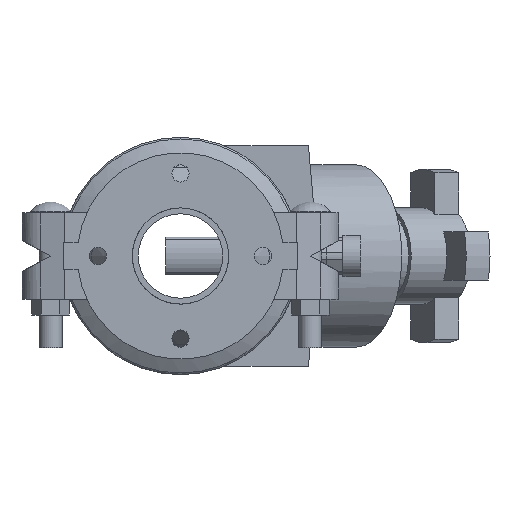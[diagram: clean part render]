
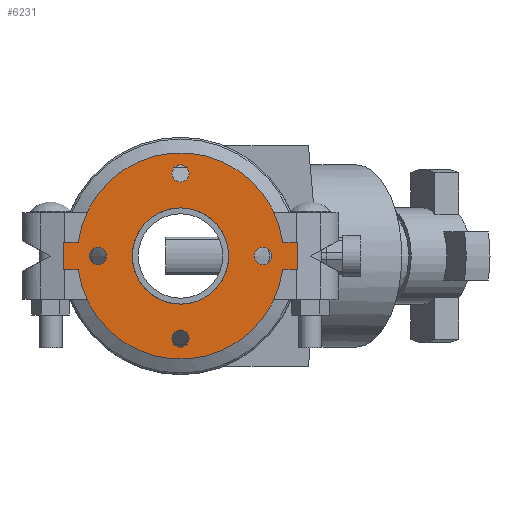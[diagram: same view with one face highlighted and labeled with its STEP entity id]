
A CAD part, front view. The second image highlights one B-rep face of the part: STEP entity #6231.
In plain terms, the highlighted planar face has unit normal (0, -1, 0) as drawn and (0, 0, 1) by its records, which use the part's own axes.
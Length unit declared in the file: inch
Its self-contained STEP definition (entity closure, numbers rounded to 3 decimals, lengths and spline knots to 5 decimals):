
#174=FACE_BOUND('',#792,.T.);
#175=FACE_BOUND('',#793,.T.);
#176=FACE_BOUND('',#794,.T.);
#177=FACE_BOUND('',#795,.T.);
#178=FACE_BOUND('',#796,.T.);
#241=PLANE('',#6785);
#446=FACE_OUTER_BOUND('',#791,.T.);
#791=EDGE_LOOP('',(#4034,#4035,#4036,#4037,#4038,#4039,#4040,#4041));
#792=EDGE_LOOP('',(#4042));
#793=EDGE_LOOP('',(#4043));
#794=EDGE_LOOP('',(#4044));
#795=EDGE_LOOP('',(#4045));
#796=EDGE_LOOP('',(#4046,#4047));
#1193=LINE('',#9522,#1659);
#1194=LINE('',#9525,#1660);
#1197=LINE('',#9530,#1663);
#1198=LINE('',#9533,#1664);
#1200=LINE('',#9536,#1666);
#1201=LINE('',#9538,#1667);
#1659=VECTOR('',#7568,0.3937);
#1660=VECTOR('',#7571,0.3937);
#1663=VECTOR('',#7576,0.3937);
#1664=VECTOR('',#7579,0.3937);
#1666=VECTOR('',#7583,0.3937);
#1667=VECTOR('',#7586,0.3937);
#2109=CIRCLE('',#6756,0.3125);
#2111=CIRCLE('',#6759,0.3125);
#2113=CIRCLE('',#6762,0.3125);
#2115=CIRCLE('',#6765,0.3125);
#2121=CIRCLE('',#6773,3.75);
#2122=CIRCLE('',#6775,1.75);
#2123=CIRCLE('',#6776,1.75);
#2124=CIRCLE('',#6778,3.75);
#2467=VERTEX_POINT('',#9457);
#2469=VERTEX_POINT('',#9463);
#2471=VERTEX_POINT('',#9469);
#2473=VERTEX_POINT('',#9475);
#2485=VERTEX_POINT('',#9502);
#2486=VERTEX_POINT('',#9504);
#2487=VERTEX_POINT('',#9508);
#2488=VERTEX_POINT('',#9510);
#2489=VERTEX_POINT('',#9514);
#2490=VERTEX_POINT('',#9516);
#2491=VERTEX_POINT('',#9520);
#2492=VERTEX_POINT('',#9524);
#2493=VERTEX_POINT('',#9528);
#2494=VERTEX_POINT('',#9532);
#3073=EDGE_CURVE('',#2467,#2467,#2109,.T.);
#3076=EDGE_CURVE('',#2469,#2469,#2111,.T.);
#3079=EDGE_CURVE('',#2471,#2471,#2113,.T.);
#3082=EDGE_CURVE('',#2473,#2473,#2115,.T.);
#3097=EDGE_CURVE('',#2485,#2486,#2121,.T.);
#3099=EDGE_CURVE('',#2488,#2487,#2122,.T.);
#3100=EDGE_CURVE('',#2487,#2488,#2123,.T.);
#3102=EDGE_CURVE('',#2490,#2489,#2124,.T.);
#3105=EDGE_CURVE('',#2486,#2491,#1193,.T.);
#3106=EDGE_CURVE('',#2492,#2490,#1194,.T.);
#3109=EDGE_CURVE('',#2489,#2493,#1197,.T.);
#3110=EDGE_CURVE('',#2494,#2485,#1198,.T.);
#3112=EDGE_CURVE('',#2493,#2494,#1200,.T.);
#3113=EDGE_CURVE('',#2491,#2492,#1201,.T.);
#4034=ORIENTED_EDGE('',*,*,#3109,.T.);
#4035=ORIENTED_EDGE('',*,*,#3112,.T.);
#4036=ORIENTED_EDGE('',*,*,#3110,.T.);
#4037=ORIENTED_EDGE('',*,*,#3097,.T.);
#4038=ORIENTED_EDGE('',*,*,#3105,.T.);
#4039=ORIENTED_EDGE('',*,*,#3113,.T.);
#4040=ORIENTED_EDGE('',*,*,#3106,.T.);
#4041=ORIENTED_EDGE('',*,*,#3102,.T.);
#4042=ORIENTED_EDGE('',*,*,#3073,.T.);
#4043=ORIENTED_EDGE('',*,*,#3076,.T.);
#4044=ORIENTED_EDGE('',*,*,#3079,.T.);
#4045=ORIENTED_EDGE('',*,*,#3082,.T.);
#4046=ORIENTED_EDGE('',*,*,#3099,.T.);
#4047=ORIENTED_EDGE('',*,*,#3100,.T.);
#6231=ADVANCED_FACE('',(#446,#174,#175,#176,#177,#178),#241,.T.);
#6756=AXIS2_PLACEMENT_3D('',#9458,#7504,#7505);
#6759=AXIS2_PLACEMENT_3D('',#9464,#7511,#7512);
#6762=AXIS2_PLACEMENT_3D('',#9470,#7518,#7519);
#6765=AXIS2_PLACEMENT_3D('',#9476,#7525,#7526);
#6773=AXIS2_PLACEMENT_3D('',#9506,#7550,#7551);
#6775=AXIS2_PLACEMENT_3D('',#9511,#7555,#7556);
#6776=AXIS2_PLACEMENT_3D('',#9512,#7557,#7558);
#6778=AXIS2_PLACEMENT_3D('',#9517,#7562,#7563);
#6785=AXIS2_PLACEMENT_3D('',#9539,#7587,#7588);
#7504=DIRECTION('center_axis',(0.,0.,-1.));
#7505=DIRECTION('ref_axis',(0.,1.,0.));
#7511=DIRECTION('center_axis',(0.,0.,-1.));
#7512=DIRECTION('ref_axis',(1.,0.,0.));
#7518=DIRECTION('center_axis',(0.,0.,-1.));
#7519=DIRECTION('ref_axis',(0.,-1.,0.));
#7525=DIRECTION('center_axis',(0.,0.,-1.));
#7526=DIRECTION('ref_axis',(-1.,0.,0.));
#7550=DIRECTION('center_axis',(0.,0.,1.));
#7551=DIRECTION('ref_axis',(-1.,0.,0.));
#7555=DIRECTION('center_axis',(0.,0.,-1.));
#7556=DIRECTION('ref_axis',(-1.,0.,0.));
#7557=DIRECTION('center_axis',(0.,0.,-1.));
#7558=DIRECTION('ref_axis',(-1.,0.,0.));
#7562=DIRECTION('center_axis',(0.,0.,1.));
#7563=DIRECTION('ref_axis',(-1.,0.,0.));
#7568=DIRECTION('',(0.,1.,0.));
#7571=DIRECTION('',(0.,-1.,0.));
#7576=DIRECTION('',(0.,-1.,0.));
#7579=DIRECTION('',(0.,1.,0.));
#7583=DIRECTION('',(1.,0.,0.));
#7586=DIRECTION('',(-1.,0.,0.));
#7587=DIRECTION('center_axis',(0.,0.,1.));
#7588=DIRECTION('ref_axis',(1.,0.,0.));
#9457=CARTESIAN_POINT('',(0.,2.6875,0.5));
#9458=CARTESIAN_POINT('Origin',(0.,3.,0.5));
#9463=CARTESIAN_POINT('',(2.6875,0.,0.5));
#9464=CARTESIAN_POINT('Origin',(3.,0.,0.5));
#9469=CARTESIAN_POINT('',(0.,-2.6875,0.5));
#9470=CARTESIAN_POINT('Origin',(0.,-3.,0.5));
#9475=CARTESIAN_POINT('',(-2.6875,0.,0.5));
#9476=CARTESIAN_POINT('Origin',(-3.,0.,0.5));
#9502=CARTESIAN_POINT('',(0.5,-3.71652,0.5));
#9504=CARTESIAN_POINT('',(0.5,3.71652,0.5));
#9506=CARTESIAN_POINT('Origin',(0.,0.,0.5));
#9508=CARTESIAN_POINT('',(1.75,0.,0.5));
#9510=CARTESIAN_POINT('',(0.5,1.67705,0.5));
#9511=CARTESIAN_POINT('Origin',(0.,0.,0.5));
#9512=CARTESIAN_POINT('Origin',(0.,0.,0.5));
#9514=CARTESIAN_POINT('',(-0.5,-3.71652,0.5));
#9516=CARTESIAN_POINT('',(-0.5,3.71652,0.5));
#9517=CARTESIAN_POINT('Origin',(0.,0.,0.5));
#9520=CARTESIAN_POINT('',(0.5,4.25,0.5));
#9522=CARTESIAN_POINT('',(0.5,4.25,0.5));
#9524=CARTESIAN_POINT('',(-0.5,4.25,0.5));
#9525=CARTESIAN_POINT('',(-0.5,-4.25,0.5));
#9528=CARTESIAN_POINT('',(-0.5,-4.25,0.5));
#9530=CARTESIAN_POINT('',(-0.5,-4.25,0.5));
#9532=CARTESIAN_POINT('',(0.5,-4.25,0.5));
#9533=CARTESIAN_POINT('',(0.5,4.25,0.5));
#9536=CARTESIAN_POINT('',(0.5,-4.25,0.5));
#9538=CARTESIAN_POINT('',(-0.5,4.25,0.5));
#9539=CARTESIAN_POINT('Origin',(0.,0.,0.5));
